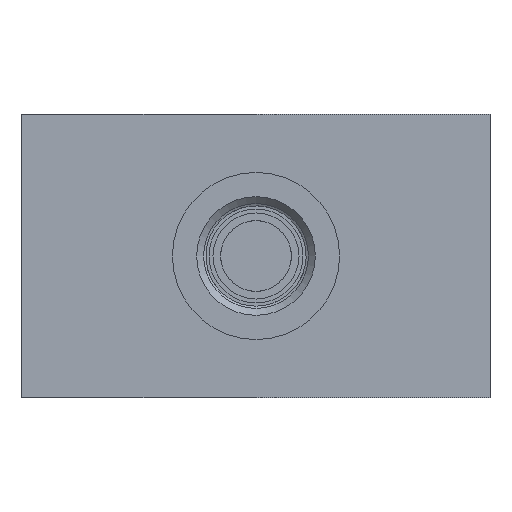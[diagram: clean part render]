
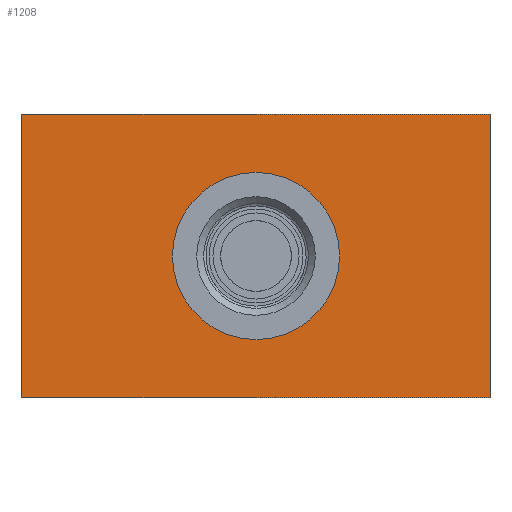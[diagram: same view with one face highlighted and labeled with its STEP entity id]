
A CAD part, front view. The second image highlights one B-rep face of the part: STEP entity #1208.
In plain terms, the highlighted planar face has unit normal (0, -1, 0).
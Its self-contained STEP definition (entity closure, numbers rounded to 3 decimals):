
#1208 = ADVANCED_FACE( '', ( #2408, #2409 ), #2410, .T. );
#2408 = FACE_OUTER_BOUND( '', #3704, .T. );
#2409 = FACE_BOUND( '', #3705, .T. );
#2410 = PLANE( '', #3706 );
#3704 = EDGE_LOOP( '', ( #5677, #5678, #5679, #5680 ) );
#3705 = EDGE_LOOP( '', ( #5681 ) );
#3706 = AXIS2_PLACEMENT_3D( '', #5682, #5683, #5684 );
#5677 = ORIENTED_EDGE( '', *, *, #6792, .F. );
#5678 = ORIENTED_EDGE( '', *, *, #6994, .F. );
#5679 = ORIENTED_EDGE( '', *, *, #7035, .T. );
#5680 = ORIENTED_EDGE( '', *, *, #7068, .T. );
#5681 = ORIENTED_EDGE( '', *, *, #7167, .T. );
#5682 = CARTESIAN_POINT( '', ( 0., -101.6, -50.8 ) );
#5683 = DIRECTION( '', ( 0., -1., 0. ) );
#5684 = DIRECTION( '', ( 0., 0., -1. ) );
#6792 = EDGE_CURVE( '', #7815, #7817, #7818, .T. );
#6994 = EDGE_CURVE( '', #8131, #7815, #8133, .T. );
#7035 = EDGE_CURVE( '', #8131, #8187, #8189, .T. );
#7068 = EDGE_CURVE( '', #8187, #7817, #8233, .T. );
#7167 = EDGE_CURVE( '', #8370, #8370, #8371, .F. );
#7815 = VERTEX_POINT( '', #9953 );
#7817 = VERTEX_POINT( '', #9956 );
#7818 = LINE( '', #9957, #9958 );
#8131 = VERTEX_POINT( '', #10819 );
#8133 = LINE( '', #10822, #10823 );
#8187 = VERTEX_POINT( '', #11029 );
#8189 = LINE( '', #11032, #11033 );
#8233 = LINE( '', #11263, #11264 );
#8370 = VERTEX_POINT( '', #11844 );
#8371 = CIRCLE( '', #11845, 15. );
#9953 = CARTESIAN_POINT( '', ( 0., -101.6, 0. ) );
#9956 = CARTESIAN_POINT( '', ( 84., -101.6, 0. ) );
#9957 = CARTESIAN_POINT( '', ( 0., -101.6, 0. ) );
#9958 = VECTOR( '', #12716, 1000. );
#10819 = CARTESIAN_POINT( '', ( 0., -101.6, -50.8 ) );
#10822 = CARTESIAN_POINT( '', ( 0., -101.6, -50.8 ) );
#10823 = VECTOR( '', #12957, 1000. );
#11029 = CARTESIAN_POINT( '', ( 84., -101.6, -50.8 ) );
#11032 = CARTESIAN_POINT( '', ( 0., -101.6, -50.8 ) );
#11033 = VECTOR( '', #12996, 1000. );
#11263 = CARTESIAN_POINT( '', ( 84., -101.6, -50.8 ) );
#11264 = VECTOR( '', #13028, 1000. );
#11844 = CARTESIAN_POINT( '', ( 42., -101.6, -40.4 ) );
#11845 = AXIS2_PLACEMENT_3D( '', #13136, #13137, #13138 );
#12716 = DIRECTION( '', ( 1., 0., 0. ) );
#12957 = DIRECTION( '', ( 0., 0., 1. ) );
#12996 = DIRECTION( '', ( 1., 0., 0. ) );
#13028 = DIRECTION( '', ( 0., 0., 1. ) );
#13136 = CARTESIAN_POINT( '', ( 42., -101.6, -25.4 ) );
#13137 = DIRECTION( '', ( 0., -1., 0. ) );
#13138 = DIRECTION( '', ( 0., 0., -1. ) );
